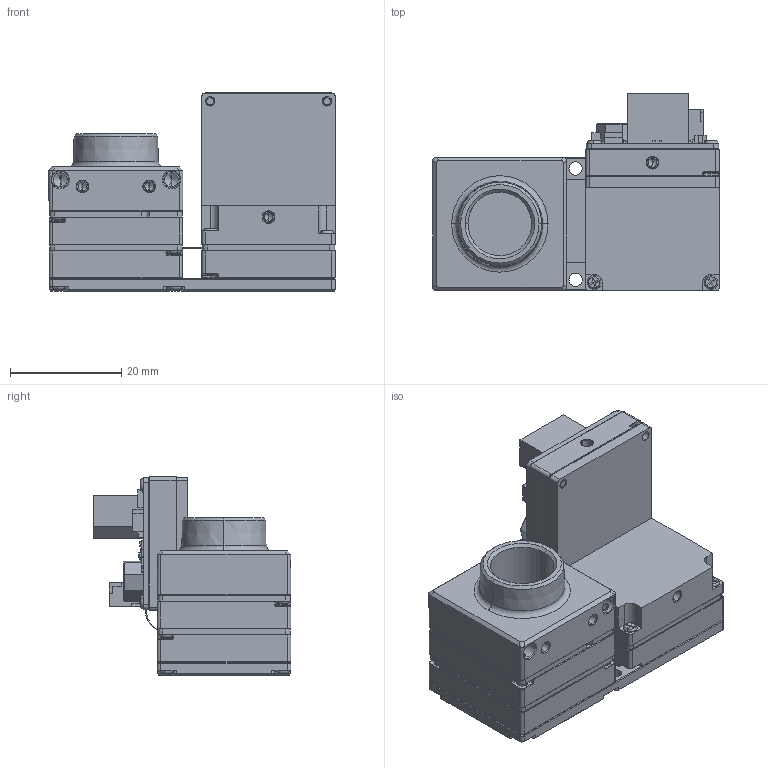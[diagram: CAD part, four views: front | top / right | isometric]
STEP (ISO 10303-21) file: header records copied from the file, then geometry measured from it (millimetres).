
FILE_DESCRIPTION (( 'STEP AP203' ), '1' );
FILE_NAME ('434-018-B_IX_180+90.STEP', '2025-04-21T19:21:25', ( '' ), ( '' ), 'SwSTEP 2.0', 'SolidWorks 2021', '' );
FILE_SCHEMA (( 'CONFIG_CONTROL_DESIGN' ));
Length unit declared in the file: millimetre
Products named in the file (1): 434-018-B_IX_180+90
Bounding box: 51.51 x 35.5 x 35.6 mm (x, y, z)
Volume: 14776 mm3; surface area: 22256.6 mm2
Topology: 79 solids, 79 shells, 5200 faces, 13257 edges, 8118 vertices
Faces by surface type: plane 2911, cylinder 1323, cone 394, bspline 320, torus 166, sphere 86
Entity records: 160348 total; most frequent: CARTESIAN_POINT 36560, ORIENTED_EDGE 26094, DIRECTION 25106, EDGE_CURVE 13047, VECTOR 9112, LINE 9112, VERTEX_POINT 8112, AXIS2_PLACEMENT_3D 7997
